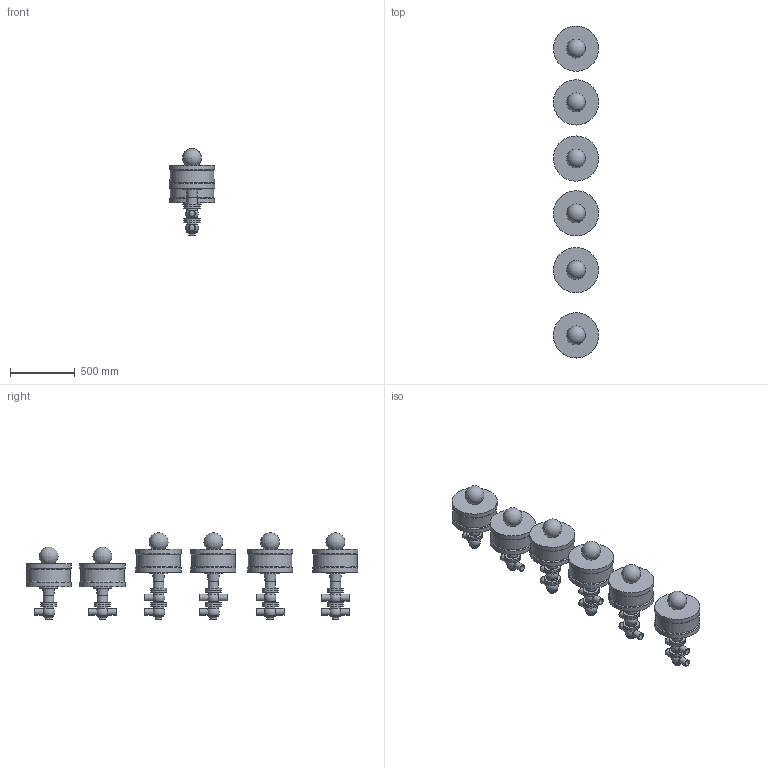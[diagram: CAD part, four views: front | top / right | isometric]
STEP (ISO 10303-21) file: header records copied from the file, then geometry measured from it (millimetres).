
FILE_DESCRIPTION(/* description */ (''),/* implementation_level */ '2;1');
FILE_NAME(/* name */ 'C:\Users\marz-m\Desktop\PDF\BBZQ 3D STEP\BBZQ-DN508-CIL.320.stp',/* time_stamp */ '2018-04-13T14:54:47+02:00',/* author */ ('marz-m'),/* organization */ (''),/* preprocessor_version */ 'ST-DEVELOPER v17',/* originating_system */ 'Autodesk Inventor 2018',/* authorisation */ '');
FILE_SCHEMA (('AUTOMOTIVE_DESIGN { 1 0 10303 214 3 1 1 }'));
Length unit declared in the file: millimetre
Products named in the file (8): BBZQ-DN508-CIL.320; ASSEMBL DN50 BBZQ; CILINDRO 320; SAGOMA-GIOTTO-; COR-INF-L-BBZQ-DN052X3-SALD; COR-INF-T-BBZQ-DN052X3-SALD; CORPO-SUP-INF-BBZQ-L-DN52X3-SALD; CORPO-SUP-INF-BBZQ-T-DN52X3-SALD
Assembly tree (28 placements, depth 2):
  BBZQ-DN508-CIL.320
    ASSEMBL DN50 BBZQ  x6
    CILINDRO 320  x6
    SAGOMA-GIOTTO-  x6
    COR-INF-L-BBZQ-DN052X3-SALD  x3
    COR-INF-T-BBZQ-DN052X3-SALD  x3
    CORPO-SUP-INF-BBZQ-L-DN52X3-SALD  x2
    CORPO-SUP-INF-BBZQ-T-DN52X3-SALD  x2
Bounding box: 348 x 2554.1 x 665.97 mm (x, y, z)
Volume: 119967533 mm3; surface area: 4141663.7 mm2
Topology: 28 solids, 28 shells, 326 faces, 758 edges, 562 vertices
Faces by surface type: cylinder 124, plane 115, torus 32, sphere 31, cone 24
Full cylindrical faces by diameter (mm): 25.4 x6, 46 x21, 52 x21, 69.8 x6, 79 x6, 80 x20, 124 x20, 141 x6, 334 x6, 348 x12
Entity records: 3605 total; most frequent: CARTESIAN_POINT 779, DIRECTION 645, ORIENTED_EDGE 438, AXIS2_PLACEMENT_3D 301, EDGE_CURVE 219, CIRCLE 168, VERTEX_POINT 163, EDGE_LOOP 124
